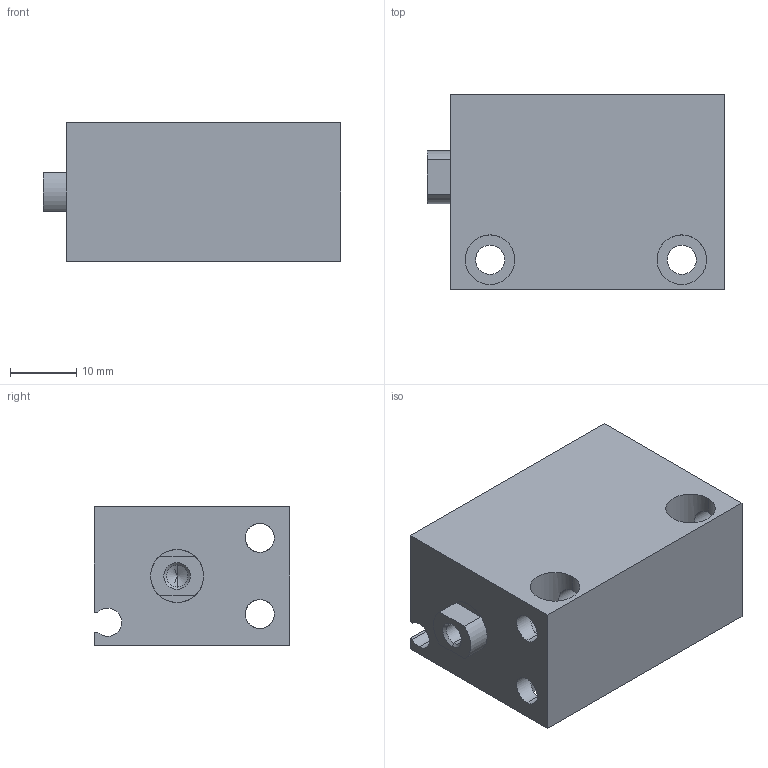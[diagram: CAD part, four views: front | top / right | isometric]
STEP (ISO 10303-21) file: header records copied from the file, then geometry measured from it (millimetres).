
FILE_DESCRIPTION (( 'STEP AP203' ), '1' );
FILE_NAME ('CLJB16-25.STEP', '2020-07-30T19:23:45', ( '' ), ( '' ), 'SwSTEP 2.0', 'SolidWorks 2019', '' );
FILE_SCHEMA (( 'CONFIG_CONTROL_DESIGN' ));
Length unit declared in the file: millimetre
Products named in the file (1): CLJB16-25
Bounding box: 45 x 29.5 x 21 mm (x, y, z)
Volume: 19111.1 mm3; surface area: 10469.1 mm2
Topology: 2 solids, 2 shells, 75 faces, 188 edges, 113 vertices
Faces by surface type: cylinder 41, plane 22, cone 12
Entity records: 3119 total; most frequent: CARTESIAN_POINT 1223, DIRECTION 394, ORIENTED_EDGE 364, EDGE_CURVE 182, AXIS2_PLACEMENT_3D 152, VERTEX_POINT 113, EDGE_LOOP 93, LINE 90
